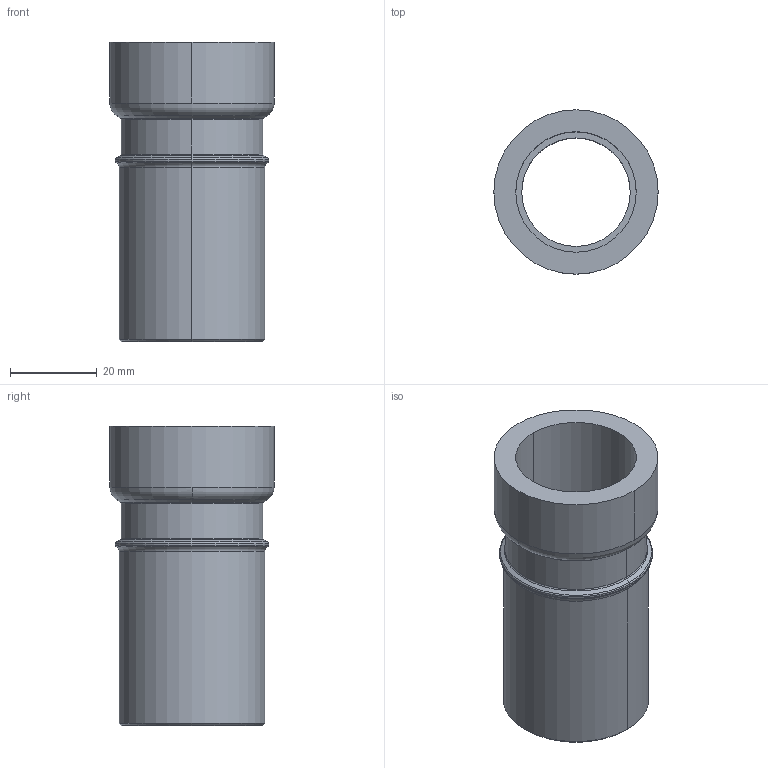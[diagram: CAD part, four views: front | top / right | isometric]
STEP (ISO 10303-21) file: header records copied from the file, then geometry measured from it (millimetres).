
FILE_DESCRIPTION(('Creo Elements/Direct Modeling STEP Export'),'2;1');
FILE_NAME('C9407_3-4_1.stp','2020-06-23T10:53:23',(''),(''),'PTC Creo Elements/Direct Modeling STEP processor for AP214 (Solid Model)','PTC Creo Elements/Direct Modeling 19.0C 15-Aug-2015 (C) Parametric Technology GmbH','');
FILE_SCHEMA(('AUTOMOTIVE_DESIGN { 1 0 10303 214 1 1 1 1 }'));
Length unit declared in the file: millimetre
Products named in the file (2): C9407_3-4_1
Assembly tree (1 placements, depth 2):
  C9407_3-4_1
    C9407_3-4_1
Bounding box: 37.9 x 37.9 x 68.96 mm (x, y, z)
Volume: 27114.4 mm3; surface area: 14396.2 mm2
Topology: 1 solids, 1 shells, 35 faces, 86 edges, 54 vertices
Faces by surface type: torus 12, cylinder 12, cone 8, plane 3
Entity records: 940 total; most frequent: ORIENTED_EDGE 172, DIRECTION 156, CARTESIAN_POINT 142, EDGE_CURVE 86, AXIS2_PLACEMENT_3D 68, VERTEX_POINT 54, EDGE_LOOP 38, FACE_OUTER_BOUND 35
